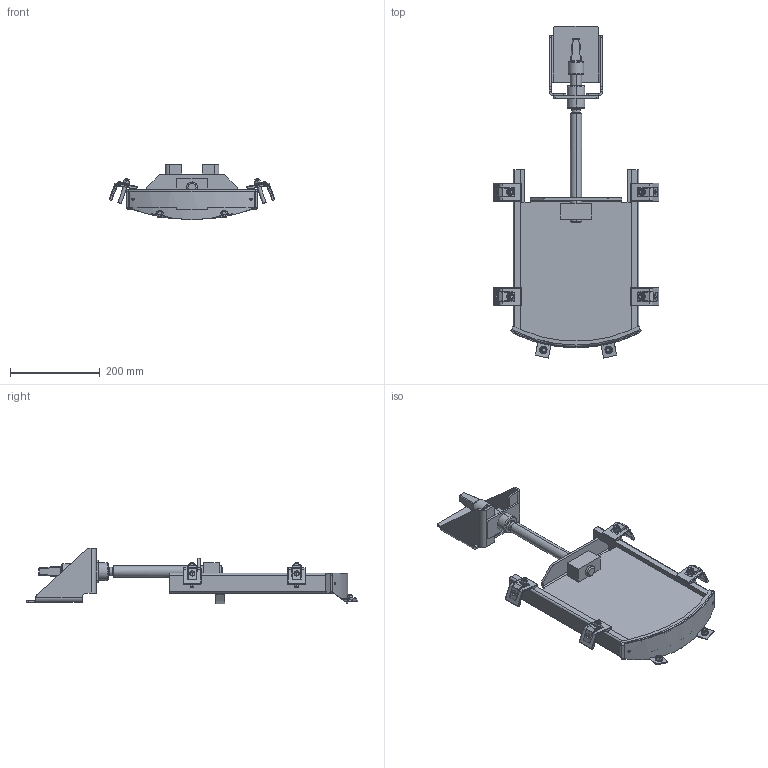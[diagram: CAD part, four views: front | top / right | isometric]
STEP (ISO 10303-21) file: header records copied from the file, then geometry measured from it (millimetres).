
FILE_DESCRIPTION (( 'STEP AP214' ), '1' );
FILE_NAME ('LW 200 Schacht800 geschr..STEP', '2022-05-19T09:33:01', ( '' ), ( '' ), 'SwSTEP 2.0', 'SolidWorks 2021', '' );
FILE_SCHEMA (( 'AUTOMOTIVE_DESIGN' ));
Length unit declared in the file: millimetre
Products named in the file (1): LW 200 Schacht800 geschr.
Bounding box: 369.26 x 739.71 x 124.19 mm (x, y, z)
Volume: 1931875.7 mm3; surface area: 548326.5 mm2
Topology: 1 solids, 5 shells, 892 faces, 2117 edges, 1210 vertices
Faces by surface type: cylinder 327, plane 291, cone 90, bspline 67, sphere 60, torus 57
Entity records: 38267 total; most frequent: CARTESIAN_POINT 8863, DIRECTION 4140, ORIENTED_EDGE 4114, EDGE_CURVE 2057, AXIS2_PLACEMENT_3D 1629, VERTEX_POINT 1202, EDGE_LOOP 953, ADVANCED_FACE 892
